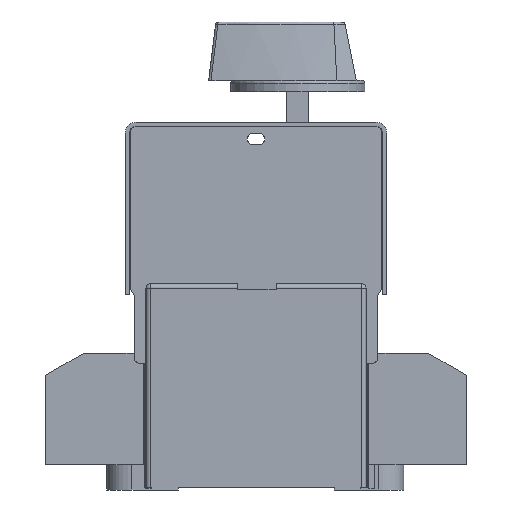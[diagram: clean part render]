
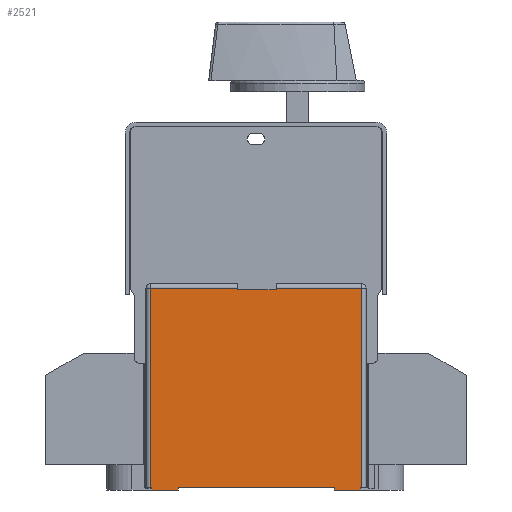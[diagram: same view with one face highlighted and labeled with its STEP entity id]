
A CAD part, left-side view. The second image highlights one B-rep face of the part: STEP entity #2521.
In plain terms, the highlighted planar face has unit normal (-1, 0, 0).
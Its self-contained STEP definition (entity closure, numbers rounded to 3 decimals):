
#1421=FACE_OUTER_BOUND('',#4733,.T.);
#2521=ADVANCED_FACE('',(#1421),#3688,.F.);
#3688=PLANE('',#23535);
#4733=EDGE_LOOP('',(#6673,#6674,#6675,#6676,#6677,#6678,#6679,#6680,#6681,
#6682,#6683,#6684,#6685,#6686,#6687,#6688));
#6673=ORIENTED_EDGE('',*,*,#15405,.F.);
#6674=ORIENTED_EDGE('',*,*,#15406,.T.);
#6675=ORIENTED_EDGE('',*,*,#15407,.T.);
#6676=ORIENTED_EDGE('',*,*,#15178,.F.);
#6677=ORIENTED_EDGE('',*,*,#15408,.T.);
#6678=ORIENTED_EDGE('',*,*,#15409,.T.);
#6679=ORIENTED_EDGE('',*,*,#15403,.T.);
#6680=ORIENTED_EDGE('',*,*,#15289,.T.);
#6681=ORIENTED_EDGE('',*,*,#15041,.F.);
#6682=ORIENTED_EDGE('',*,*,#15410,.F.);
#6683=ORIENTED_EDGE('',*,*,#15411,.T.);
#6684=ORIENTED_EDGE('',*,*,#15189,.T.);
#6685=ORIENTED_EDGE('',*,*,#15412,.F.);
#6686=ORIENTED_EDGE('',*,*,#15413,.F.);
#6687=ORIENTED_EDGE('',*,*,#15057,.T.);
#6688=ORIENTED_EDGE('',*,*,#15301,.T.);
#12840=VERTEX_POINT('',#31739);
#12841=VERTEX_POINT('',#31741);
#12854=VERTEX_POINT('',#31772);
#12855=VERTEX_POINT('',#31774);
#12954=VERTEX_POINT('',#32022);
#12956=VERTEX_POINT('',#32026);
#12967=VERTEX_POINT('',#32050);
#12968=VERTEX_POINT('',#32052);
#13051=VERTEX_POINT('',#32251);
#13059=VERTEX_POINT('',#32273);
#13122=VERTEX_POINT('',#32471);
#13123=VERTEX_POINT('',#32475);
#13124=VERTEX_POINT('',#32477);
#13125=VERTEX_POINT('',#32480);
#13126=VERTEX_POINT('',#32483);
#13127=VERTEX_POINT('',#32486);
#15041=EDGE_CURVE('',#12840,#12841,#18385,.T.);
#15057=EDGE_CURVE('',#12855,#12854,#18400,.T.);
#15178=EDGE_CURVE('',#12956,#12954,#18508,.T.);
#15189=EDGE_CURVE('',#12968,#12967,#18519,.T.);
#15289=EDGE_CURVE('',#13051,#12841,#18598,.T.);
#15301=EDGE_CURVE('',#12854,#13059,#18606,.T.);
#15403=EDGE_CURVE('',#13122,#13051,#18694,.T.);
#15405=EDGE_CURVE('',#13123,#13059,#18695,.T.);
#15406=EDGE_CURVE('',#13123,#13124,#18696,.T.);
#15407=EDGE_CURVE('',#13124,#12954,#18697,.T.);
#15408=EDGE_CURVE('',#12956,#13125,#18698,.T.);
#15409=EDGE_CURVE('',#13125,#13122,#18699,.T.);
#15410=EDGE_CURVE('',#13126,#12840,#18700,.T.);
#15411=EDGE_CURVE('',#13126,#12968,#18701,.T.);
#15412=EDGE_CURVE('',#13127,#12967,#18702,.T.);
#15413=EDGE_CURVE('',#12855,#13127,#18703,.T.);
#18385=LINE('',#31740,#20912);
#18400=LINE('',#31773,#20927);
#18508=LINE('',#32027,#21035);
#18519=LINE('',#32051,#21046);
#18598=LINE('',#32250,#21125);
#18606=LINE('',#32274,#21133);
#18694=LINE('',#32470,#21221);
#18695=LINE('',#32474,#21222);
#18696=LINE('',#32476,#21223);
#18697=LINE('',#32478,#21224);
#18698=LINE('',#32479,#21225);
#18699=LINE('',#32481,#21226);
#18700=LINE('',#32482,#21227);
#18701=LINE('',#32484,#21228);
#18702=LINE('',#32485,#21229);
#18703=LINE('',#32487,#21230);
#20912=VECTOR('',#25411,1.);
#20927=VECTOR('',#25434,1.);
#21035=VECTOR('',#25614,1.);
#21046=VECTOR('',#25629,1.);
#21125=VECTOR('',#25782,1.);
#21133=VECTOR('',#25804,1.);
#21221=VECTOR('',#25984,1.);
#21222=VECTOR('',#25989,1.);
#21223=VECTOR('',#25990,1.);
#21224=VECTOR('',#25991,1.);
#21225=VECTOR('',#25992,1.);
#21226=VECTOR('',#25993,1.);
#21227=VECTOR('',#25994,1.);
#21228=VECTOR('',#25995,1.);
#21229=VECTOR('',#25996,1.);
#21230=VECTOR('',#25997,1.);
#23535=AXIS2_PLACEMENT_3D('',#32488,#25998,#25999);
#25411=DIRECTION('',(0.,0.,1.));
#25434=DIRECTION('',(0.,0.,1.));
#25614=DIRECTION('',(0.,-1.,0.));
#25629=DIRECTION('',(0.,-1.,0.));
#25782=DIRECTION('',(0.,-1.,0.));
#25804=DIRECTION('',(0.,-1.,0.));
#25984=DIRECTION('',(0.,0.,-1.));
#25989=DIRECTION('',(0.,0.,-1.));
#25990=DIRECTION('',(0.,1.,0.));
#25991=DIRECTION('',(0.,0.,-1.));
#25992=DIRECTION('',(0.,0.,1.));
#25993=DIRECTION('',(0.,1.,0.));
#25994=DIRECTION('',(0.,1.,0.));
#25995=DIRECTION('',(0.,0.,1.));
#25996=DIRECTION('',(0.,0.,1.));
#25997=DIRECTION('',(0.,1.,0.));
#25998=DIRECTION('',(1.,0.,0.));
#25999=DIRECTION('',(0.,0.,-1.));
#31739=CARTESIAN_POINT('',(-69.,12.765,-4.9));
#31740=CARTESIAN_POINT('',(-69.,12.765,-5.9));
#31741=CARTESIAN_POINT('',(-69.,12.765,-3.9));
#31772=CARTESIAN_POINT('',(-69.,-62.235,-3.9));
#31773=CARTESIAN_POINT('',(-69.,-62.235,-5.9));
#31774=CARTESIAN_POINT('',(-69.,-62.235,-4.9));
#32022=CARTESIAN_POINT('',(-69.,-31.985,67.));
#32026=CARTESIAN_POINT('',(-69.,-17.985,67.));
#32027=CARTESIAN_POINT('',(-69.,12.765,67.));
#32050=CARTESIAN_POINT('',(-69.,-52.735,-3.9));
#32051=CARTESIAN_POINT('',(-69.,-62.235,-3.9));
#32052=CARTESIAN_POINT('',(-69.,3.265,-3.9));
#32250=CARTESIAN_POINT('',(-69.,-62.235,-3.9));
#32251=CARTESIAN_POINT('',(-69.,13.265,-3.9));
#32273=CARTESIAN_POINT('',(-69.,-62.735,-3.9));
#32274=CARTESIAN_POINT('',(-69.,-62.235,-3.9));
#32470=CARTESIAN_POINT('',(-69.,13.265,69.1));
#32471=CARTESIAN_POINT('',(-69.,13.265,67.6));
#32474=CARTESIAN_POINT('',(-69.,-62.735,69.1));
#32475=CARTESIAN_POINT('',(-69.,-62.735,67.6));
#32476=CARTESIAN_POINT('',(-69.,13.265,67.6));
#32477=CARTESIAN_POINT('',(-69.,-31.985,67.6));
#32478=CARTESIAN_POINT('',(-69.,-31.985,69.1));
#32479=CARTESIAN_POINT('',(-69.,-17.985,69.1));
#32480=CARTESIAN_POINT('',(-69.,-17.985,67.6));
#32481=CARTESIAN_POINT('',(-69.,13.265,67.6));
#32482=CARTESIAN_POINT('',(-69.,3.265,-4.9));
#32483=CARTESIAN_POINT('',(-69.,3.265,-4.9));
#32484=CARTESIAN_POINT('',(-69.,3.265,-5.9));
#32485=CARTESIAN_POINT('',(-69.,-52.735,-5.9));
#32486=CARTESIAN_POINT('',(-69.,-52.735,-4.9));
#32487=CARTESIAN_POINT('',(-69.,-62.235,-4.9));
#32488=CARTESIAN_POINT('',(-69.,-62.235,69.1));
